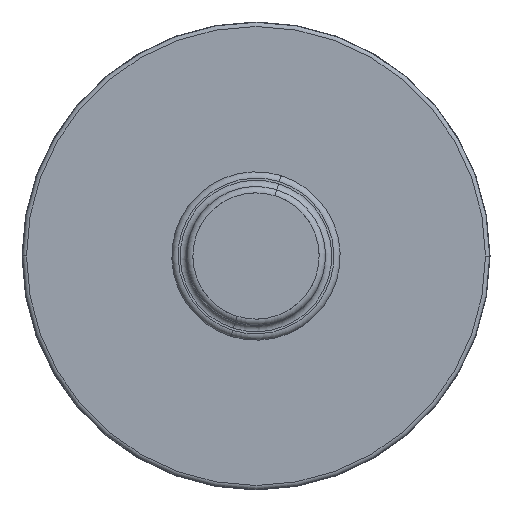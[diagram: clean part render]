
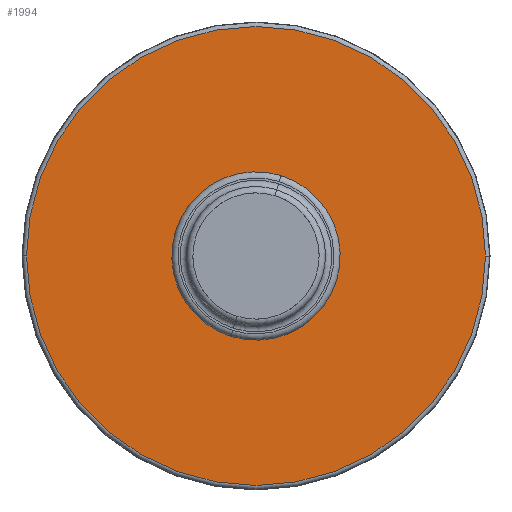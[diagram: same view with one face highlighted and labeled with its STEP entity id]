
A CAD part, left-side view. The second image highlights one B-rep face of the part: STEP entity #1994.
In plain terms, the highlighted planar face has unit normal (-1, 0, 0).
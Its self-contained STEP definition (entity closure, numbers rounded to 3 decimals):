
#413 = FACE_BOUND ( 'NONE', #1880, .T. ) ;
#414 = FACE_OUTER_BOUND ( 'NONE', #1995, .T. ) ;
#415 = DIRECTION ( 'NONE',  ( 0., -1., 0. ) ) ;
#416 = DIRECTION ( 'NONE',  ( -1., 0., 0. ) ) ;
#417 = CARTESIAN_POINT ( 'NONE',  ( 0.67, 12.853, 0. ) ) ;
#418 = AXIS2_PLACEMENT_3D ( 'NONE', #417, #416, #415 ) ;
#419 = CIRCLE ( 'NONE', #418, 10.9 ) ;
#456 = DIRECTION ( 'NONE',  ( 0., -1., 0. ) ) ;
#457 = DIRECTION ( 'NONE',  ( -1., 0., 0. ) ) ;
#458 = CARTESIAN_POINT ( 'NONE',  ( 0.67, 16.353, 0. ) ) ;
#459 = AXIS2_PLACEMENT_3D ( 'NONE', #458, #457, #456 ) ;
#460 = PLANE ( 'NONE',  #459 ) ;
#461 = CARTESIAN_POINT ( 'NONE',  ( 0.67, 23.753, 0. ) ) ;
#509 = CARTESIAN_POINT ( 'NONE',  ( 0.67, 1.953, 0. ) ) ;
#510 = DIRECTION ( 'NONE',  ( 0., -1., 0. ) ) ;
#511 = DIRECTION ( 'NONE',  ( -1., 0., 0. ) ) ;
#512 = CARTESIAN_POINT ( 'NONE',  ( 0.67, 12.853, 0. ) ) ;
#513 = AXIS2_PLACEMENT_3D ( 'NONE', #512, #511, #510 ) ;
#514 = CIRCLE ( 'NONE', #513, 10.9 ) ;
#573 = CIRCLE ( 'NONE', #625, 3.7 ) ;
#574 = CARTESIAN_POINT ( 'NONE',  ( 0.67, 16.553, 0. ) ) ;
#575 = CARTESIAN_POINT ( 'NONE',  ( 0.67, 9.153, 0. ) ) ;
#576 = DIRECTION ( 'NONE',  ( 0., -1., 0. ) ) ;
#577 = DIRECTION ( 'NONE',  ( 1., 0., 0. ) ) ;
#578 = CARTESIAN_POINT ( 'NONE',  ( 0.67, 12.853, 0. ) ) ;
#579 = AXIS2_PLACEMENT_3D ( 'NONE', #578, #577, #576 ) ;
#580 = CIRCLE ( 'NONE', #579, 3.7 ) ;
#622 = DIRECTION ( 'NONE',  ( 0., -1., 0. ) ) ;
#623 = DIRECTION ( 'NONE',  ( 1., 0., 0. ) ) ;
#624 = CARTESIAN_POINT ( 'NONE',  ( 0.67, 12.853, 0. ) ) ;
#625 = AXIS2_PLACEMENT_3D ( 'NONE', #624, #623, #622 ) ;
#1880 = EDGE_LOOP ( 'NONE', ( #2048, #2052 ) ) ;
#1993 = EDGE_CURVE ( 'NONE', #2016, #2019, #419, .T. ) ;
#1994 = ADVANCED_FACE ( 'NONE', ( #414, #413 ), #460, .T. ) ;
#1995 = EDGE_LOOP ( 'NONE', ( #1996, #1997 ) ) ;
#1996 = ORIENTED_EDGE ( 'NONE', *, *, #2018, .T. ) ;
#1997 = ORIENTED_EDGE ( 'NONE', *, *, #1993, .T. ) ;
#2016 = VERTEX_POINT ( 'NONE', #461 ) ;
#2018 = EDGE_CURVE ( 'NONE', #2019, #2016, #514, .T. ) ;
#2019 = VERTEX_POINT ( 'NONE', #509 ) ;
#2048 = ORIENTED_EDGE ( 'NONE', *, *, #2049, .T. ) ;
#2049 = EDGE_CURVE ( 'NONE', #2050, #2051, #580, .T. ) ;
#2050 = VERTEX_POINT ( 'NONE', #575 ) ;
#2051 = VERTEX_POINT ( 'NONE', #574 ) ;
#2052 = ORIENTED_EDGE ( 'NONE', *, *, #2053, .T. ) ;
#2053 = EDGE_CURVE ( 'NONE', #2051, #2050, #573, .T. ) ;
